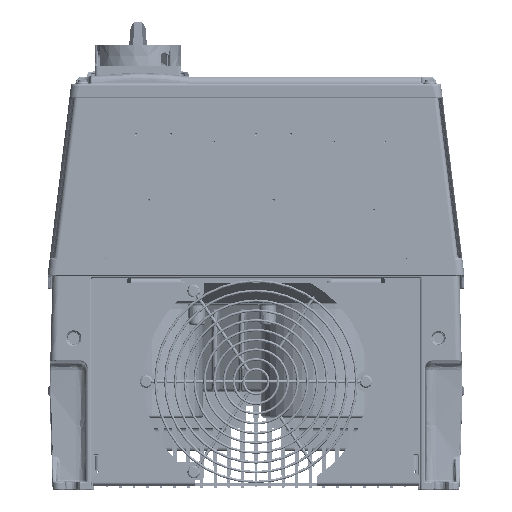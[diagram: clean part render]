
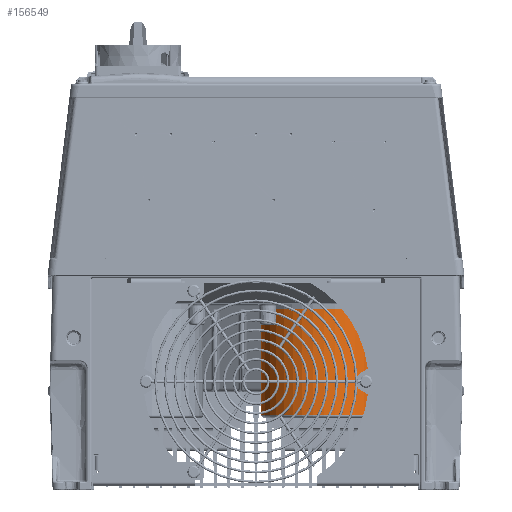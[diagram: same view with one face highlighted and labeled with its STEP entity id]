
A CAD part, front view. The second image highlights one B-rep face of the part: STEP entity #156549.
In plain terms, the highlighted cylindrical face has radius 46.1 mm (diameter 92.2 mm), a partial arc.
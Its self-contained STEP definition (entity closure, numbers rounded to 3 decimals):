
#25842=CARTESIAN_POINT('',(50.,-201.5,-104.813));
#25843=DIRECTION('',(0.,0.,1.));
#25844=DIRECTION('',(-1.,0.,0.));
#25845=AXIS2_PLACEMENT_3D('',#25842,#25843,#25844);
#25847=CARTESIAN_POINT('',(50.,-201.5,-26.2));
#25848=DIRECTION('',(0.,0.,-1.));
#25849=DIRECTION('',(0.,-1.,0.));
#25850=AXIS2_PLACEMENT_3D('',#25847,#25848,#25849);
#25852=CARTESIAN_POINT('',(50.,-201.5,-26.2));
#25853=DIRECTION('',(0.,0.,-1.));
#25854=DIRECTION('',(1.,0.,0.));
#25855=AXIS2_PLACEMENT_3D('',#25852,#25853,#25854);
#25857=DIRECTION('',(0.,0.,-1.));
#25858=VECTOR('',#25857,78.613);
#25859=CARTESIAN_POINT('',(96.1,-201.5,-26.2));
#25860=LINE('',#25859,#25858);
#25886=DIRECTION('',(0.,0.,-1.));
#25887=VECTOR('',#25886,78.613);
#25888=CARTESIAN_POINT('',(3.9,-201.5,-26.2));
#25889=LINE('',#25888,#25887);
#106832=CARTESIAN_POINT('',(96.1,-201.5,-26.2));
#106833=CARTESIAN_POINT('',(50.,-247.6,-26.2));
#106834=VERTEX_POINT('',#106832);
#106835=VERTEX_POINT('',#106833);
#106836=CARTESIAN_POINT('',(3.9,-201.5,-26.2));
#106837=VERTEX_POINT('',#106836);
#106858=CARTESIAN_POINT('',(96.1,-201.5,-104.813));
#106859=CARTESIAN_POINT('',(3.9,-201.5,-104.813));
#106860=VERTEX_POINT('',#106858);
#106861=VERTEX_POINT('',#106859);
#156533=CARTESIAN_POINT('',(50.,-201.5,3.));
#156534=DIRECTION('',(0.,0.,-1.));
#156535=DIRECTION('',(1.,0.,0.));
#156536=AXIS2_PLACEMENT_3D('',#156533,#156534,#156535);
#156537=CYLINDRICAL_SURFACE('',#156536,46.1);
#156539=ORIENTED_EDGE('',*,*,#156538,.F.);
#156541=ORIENTED_EDGE('',*,*,#156540,.F.);
#156543=ORIENTED_EDGE('',*,*,#156542,.F.);
#156544=ORIENTED_EDGE('',*,*,#156521,.F.);
#156546=ORIENTED_EDGE('',*,*,#156545,.T.);
#156547=EDGE_LOOP('',(#156539,#156541,#156543,#156544,#156546));
#156548=FACE_OUTER_BOUND('',#156547,.F.);
#25846=CIRCLE('',#25845,46.1);
#25851=CIRCLE('',#25850,46.1);
#25856=CIRCLE('',#25855,46.1);
#156521=EDGE_CURVE('',#106834,#106835,#25856,.T.);
#156538=EDGE_CURVE('',#106861,#106860,#25846,.T.);
#156540=EDGE_CURVE('',#106837,#106861,#25889,.T.);
#156542=EDGE_CURVE('',#106835,#106837,#25851,.T.);
#156545=EDGE_CURVE('',#106834,#106860,#25860,.T.);
#156549=ADVANCED_FACE('',(#156548),#156537,.T.);
